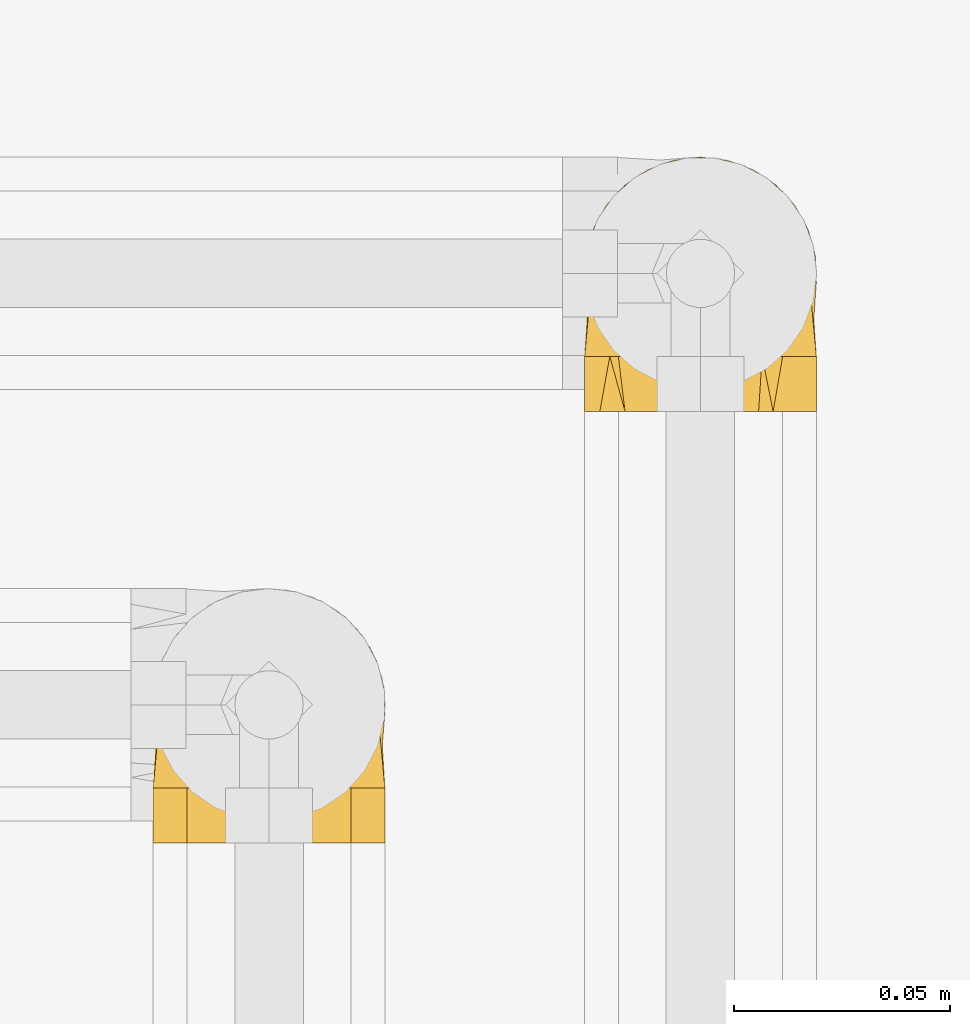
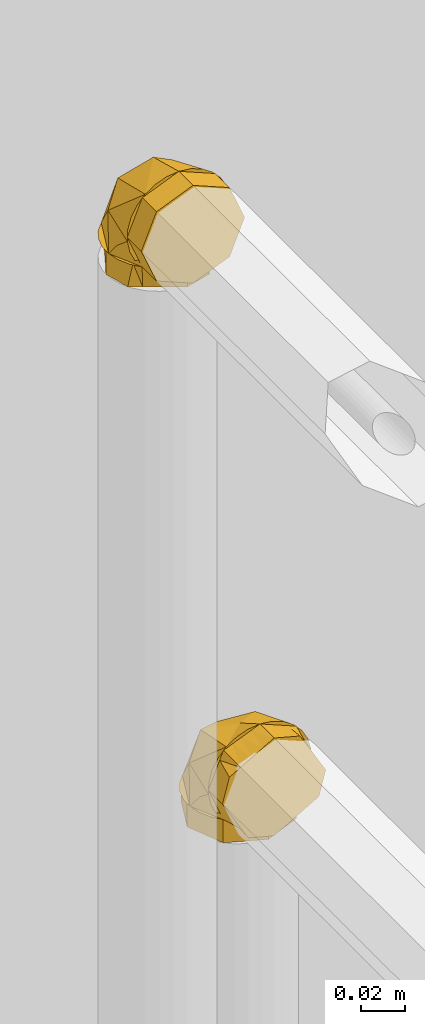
# One storey, part 315 of 652: 2 coverings.
"""IFC2X3 building model written with IfcOpenShell, lengths in millimetres."""

from ifc_helpers import new_model, entity, si_unit, converted_unit, direction, frame, origin, place, context, subcontext, project, spatial, face_set, surface_model, material, type_object, element, save


model = new_model("IFC2X3")

# Units and contexts
model_context = context("Model", 3, precision=0.01, world=frame((0.0, 0.0, 308426.39999999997)), true_north=direction((6.123233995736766e-17, 1.0)))
plan_context = context("Plan", 3, precision=0.01, world=frame((0.0, 0.0, 308426.39999999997)), true_north=direction((6.123233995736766e-17, 1.0)))
body_context = subcontext(model_context, "Body", "Model", "MODEL_VIEW")
ifc_project = project(units=[si_unit("LENGTHUNIT", "METRE", prefix="MILLI"), si_unit("AREAUNIT", "SQUARE_METRE"), si_unit("VOLUMEUNIT", "CUBIC_METRE"), converted_unit("PLANEANGLEUNIT", "DEGREE", entity("IfcPlaneAngleMeasure", 0.017453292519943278), si_unit("PLANEANGLEUNIT", "RADIAN"), dimensions=[0, 0, 0, 0, 0, 0, 0])], contexts=[model_context, plan_context])

# Site, building, storey
site_placement = place(None, origin())
site = spatial("IfcSite", under=ifc_project, at=site_placement, Name="Default", CompositionType="ELEMENT")
building_placement = place(site_placement, origin())
building = spatial("IfcBuilding", under=site, at=building_placement, CompositionType="ELEMENT")
storey_placement = place(building_placement, frame((0.0, 0.0, 1730.6999999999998)))
storey = spatial("IfcBuildingStorey", under=building, at=storey_placement, Name="EG_Produktion_FFB", CompositionType="ELEMENT", Elevation=1730.6999999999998)

# Coverings
ifc_material = material(Name="Dämmung - Armaflex-Schlauch")
covering_type = type_object("IfcCoveringType", Name="Rohrdämmung außen:Armaflex-Schlauch", PredefinedType="INSULATION")
covering_1_placement = place(storey_placement, frame((29071.46722776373, 50390.05280774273, 3728.532772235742)))
element("IfcCovering", 1, at=covering_1_placement, inside=storey, type_object=covering_type, material=ifc_material, Name="Rohrdämmung außen:Armaflex-Schlauch", ObjectType="Rohrdämmung außen:Armaflex-Schlauch", PredefinedType="INSULATION", context=body_context, shape_type="SurfaceModel", body=[
    surface_model("IfcFaceBasedSurfaceModel", [(9.65642195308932, 12.766249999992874, -47.750272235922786), (5.678961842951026, 17.724287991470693, -47.75027223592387), (2.973980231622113, 23.47627931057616, -47.75027223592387), (1.6920879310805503, 29.70195853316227, -47.75027223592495), (1.9046594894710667, 36.054685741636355, -47.75027223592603), (3.5998591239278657, 42.1807471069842, -47.75027223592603), (6.683299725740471, 47.7390493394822, -47.75027223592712), (10.983298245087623, 52.420111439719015, -47.75027223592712), (16.26043484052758, 55.963296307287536, -47.7502722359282), (22.220883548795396, 58.17132276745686, -47.7502722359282), (28.532772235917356, 58.921249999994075, -47.7502722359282), (34.84466092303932, 58.17132276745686, -47.7502722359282), (40.80510963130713, 55.963296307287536, -47.7502722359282), (46.08224622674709, 52.420111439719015, -47.75027223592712), (50.38224474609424, 47.7390493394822, -47.75027223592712), (53.46568534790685, 42.1807471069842, -47.75027223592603), (55.16088498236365, 36.054685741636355, -47.75027223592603), (55.37345654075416, 29.70195853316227, -47.75027223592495), (54.0915642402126, 23.47627931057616, -47.75027223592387), (51.38658262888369, 17.724287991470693, -47.75027223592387), (47.40912251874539, 12.766249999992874, -47.750272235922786), (51.38658262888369, 12.766249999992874, -42.79223424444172), (54.0915642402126, 12.766249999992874, -37.04024292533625), (55.37345654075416, 12.766249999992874, -30.814563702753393), (55.16088498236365, 12.766249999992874, -24.46183649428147), (53.46568534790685, 12.766249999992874, -18.33577512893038), (50.38224474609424, 12.766249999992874, -12.777472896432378), (46.08224622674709, 12.766250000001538, -8.096410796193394), (40.80510963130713, 12.766250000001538, -4.553225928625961), (34.84466092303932, 12.766250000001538, -2.3451994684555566), (28.532772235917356, 12.766250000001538, -1.5952722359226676), (22.220883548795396, 12.766250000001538, -2.3451994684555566), (16.26043484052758, 12.766250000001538, -4.553225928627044), (10.983298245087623, 12.766250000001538, -8.096410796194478), (6.683299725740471, 12.766249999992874, -12.777472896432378), (3.5998591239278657, 12.766249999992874, -18.33577512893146), (1.9046594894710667, 12.766249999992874, -24.46183649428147), (1.6920879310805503, 12.766249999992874, -30.814563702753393), (2.973980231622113, 12.766249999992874, -37.04024292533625), (5.678961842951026, 12.766249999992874, -42.7922342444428), (2.2767480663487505, 21.44687487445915, -37.80729463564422), (28.533284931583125, 52.737988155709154, -24.672631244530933), (6.336965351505, 41.0596312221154, -47.750292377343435), (3.5999231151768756, 33.56706530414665, -26.950980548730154), (14.285317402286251, 41.8409788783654, -17.332381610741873), (28.533284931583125, 31.02768542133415, -12.139675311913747), (6.336965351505, 12.768334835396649, -19.455507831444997), (42.781252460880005, 41.8409788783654, -17.332381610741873), (53.46664674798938, 33.56706530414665, -26.950980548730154), (54.7898217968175, 21.44687487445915, -37.80729463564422), (50.72727907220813, 12.768334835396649, -19.455507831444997), (50.72727907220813, 41.0596312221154, -47.750292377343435), (28.532772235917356, 58.921250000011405, -60.51652223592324), (33.2946944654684, 56.948797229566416, -60.51652223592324), (38.05661669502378, 54.97634445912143, -60.51652223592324), (42.81853892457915, 53.00389168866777, -60.51652223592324), (47.5804611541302, 51.03143891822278, -60.51652223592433), (49.552913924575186, 46.26951668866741, -60.51652223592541), (51.5253666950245, 41.507594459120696, -60.51652223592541), (53.49781946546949, 36.74567222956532, -60.51652223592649), (55.47027223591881, 31.983750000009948, -60.516522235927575), (53.497819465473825, 27.22182777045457, -60.516522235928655), (51.5253666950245, 22.459905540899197, -60.51652223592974), (49.552913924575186, 17.697983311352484, -60.51652223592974), (47.5804611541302, 12.936061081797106, -60.51652223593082), (42.81853892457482, 10.963608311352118, -60.5165222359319), (38.05661669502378, 8.991155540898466, -60.5165222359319), (33.2946944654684, 7.018702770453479, -60.5165222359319), (28.532772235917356, 5.046250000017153, -60.5165222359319), (23.77085000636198, 7.018702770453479, -60.5165222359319), (19.008927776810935, 8.991155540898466, -60.5165222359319), (14.247005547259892, 10.963608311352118, -60.51652223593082), (9.485083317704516, 12.936061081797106, -60.51652223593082), (7.512630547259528, 17.697983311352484, -60.51652223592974), (5.540177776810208, 22.459905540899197, -60.51652223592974), (3.567725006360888, 27.22182777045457, -60.516522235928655), (1.5952722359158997, 31.983750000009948, -60.516522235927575), (3.5677250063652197, 36.74567222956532, -60.516522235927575), (5.540177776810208, 41.507594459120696, -60.51652223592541), (7.512630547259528, 46.26951668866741, -60.51652223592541), (9.485083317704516, 51.03143891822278, -60.51652223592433), (14.247005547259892, 53.00389168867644, -60.51652223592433), (19.008927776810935, 54.97634445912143, -60.51652223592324), (23.77085000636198, 56.948797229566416, -60.51652223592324), (28.532772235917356, 58.92125000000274, -47.75027223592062), (23.770850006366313, 56.948797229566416, -47.75027223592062), (19.008927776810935, 54.97634445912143, -47.750272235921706), (14.24700554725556, 53.00389168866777, -47.750272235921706), (9.485083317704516, 51.03143891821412, -47.750272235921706), (7.095738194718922, 45.26304951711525, -47.750272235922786), (4.706393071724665, 39.49466011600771, -47.75027223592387), (1.5952722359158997, 31.983750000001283, -47.75027223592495), (3.567725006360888, 27.22182777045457, -47.75027223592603), (5.540177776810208, 22.459905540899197, -47.75027223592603), (7.512630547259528, 17.69798331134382, -47.7502722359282), (9.485083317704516, 12.936061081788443, -47.7502722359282), (15.253472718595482, 10.546715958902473, -47.7502722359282), (21.021862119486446, 8.157370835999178, -47.7502722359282), (28.532772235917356, 5.046250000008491, -47.75027223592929), (33.2946944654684, 7.018702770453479, -47.75027223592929), (38.05661669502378, 8.991155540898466, -47.7502722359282), (42.81853892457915, 10.963608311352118, -47.7502722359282), (47.5804611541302, 12.936061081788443, -47.7502722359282), (49.96980627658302, 18.704450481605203, -47.75027223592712), (52.359151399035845, 24.472839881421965, -47.75027223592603), (55.47027223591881, 31.983750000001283, -47.75027223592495), (53.497819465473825, 36.74567222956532, -47.75027223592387), (51.5253666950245, 41.507594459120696, -47.75027223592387), (49.552913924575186, 46.26951668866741, -47.750272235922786), (47.5804611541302, 51.03143891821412, -47.750272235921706), (41.81207177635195, 53.420784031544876, -47.750272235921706), (36.0436823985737, 55.810129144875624, -47.750272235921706), (28.532772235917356, 0.0, -1.5952722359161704), (22.700632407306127, 0.0, -4.962459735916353), (16.868492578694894, 0.0, -8.329647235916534), (11.036352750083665, 0.0, -11.696834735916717), (5.204212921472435, 0.0, -15.064022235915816), (3.3997425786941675, 0.0, -21.79839723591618), (1.5952722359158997, 0.0, -28.532772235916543), (4.962459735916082, 0.0, -34.36491206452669), (8.329647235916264, 0.0, -40.197051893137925), (11.696834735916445, 0.0, -46.02919172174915), (15.064022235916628, 0.0, -51.861331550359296), (21.79839723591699, 0.0, -53.66580189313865), (28.532772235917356, 0.0, -55.470272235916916), (34.36491206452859, 0.0, -52.10308473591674), (40.197051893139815, 0.0, -48.73589723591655), (46.02919172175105, 0.0, -45.36870973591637), (51.86133155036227, 0.0, -42.00152223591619), (53.66580189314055, 0.0, -35.26714723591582), (55.47027223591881, 0.0, -28.532772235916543), (52.10308473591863, 0.0, -22.700632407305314), (48.73589723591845, 0.0, -16.868492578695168), (45.368709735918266, 0.0, -11.036352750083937), (42.00152223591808, 0.0, -5.204212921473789), (35.26714723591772, 0.0, -3.3997425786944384), (28.532772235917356, 12.766250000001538, -1.5952722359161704), (33.2946944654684, 12.766250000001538, -3.567725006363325), (38.05661669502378, 12.766250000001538, -5.540177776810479), (42.81853892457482, 12.766250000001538, -7.512630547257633), (47.5804611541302, 12.766250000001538, -9.485083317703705), (49.552913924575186, 12.766250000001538, -14.247005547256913), (51.5253666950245, 12.766250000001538, -19.008927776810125), (53.49781946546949, 12.766250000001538, -23.770850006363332), (55.47027223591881, 12.766250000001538, -28.532772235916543), (53.49781946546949, 12.766250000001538, -33.29469446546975), (51.5253666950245, 12.766250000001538, -38.05661669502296), (49.552913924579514, 12.766250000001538, -42.818538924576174), (47.5804611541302, 12.766250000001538, -47.58046115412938), (42.81853892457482, 12.766250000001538, -49.552913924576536), (38.05661669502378, 12.766250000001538, -51.52536669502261), (33.2946944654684, 12.766250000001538, -53.49781946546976), (28.532772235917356, 12.766250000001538, -55.470272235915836), (23.77085000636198, 12.766250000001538, -53.49781946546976), (19.008927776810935, 12.766250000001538, -51.52536669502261), (14.247005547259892, 12.766250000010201, -49.552913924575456), (9.485083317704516, 12.766250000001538, -47.58046115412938), (7.512630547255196, 12.766250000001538, -42.818538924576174), (5.540177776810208, 12.766250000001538, -38.05661669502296), (3.5677250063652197, 12.766250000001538, -33.29469446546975), (1.5952722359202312, 12.766250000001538, -28.532772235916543), (3.567725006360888, 12.766250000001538, -23.770850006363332), (5.540177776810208, 12.766250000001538, -19.008927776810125), (7.512630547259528, 12.766250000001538, -14.247005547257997), (9.485083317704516, 12.766250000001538, -9.485083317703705), (14.247005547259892, 12.766250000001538, -7.512630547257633), (19.008927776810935, 12.766250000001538, -5.540177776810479), (23.77085000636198, 12.766250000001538, -3.567725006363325)], [face_set([[[0, 1, 2, 3, 4, 5, 6, 7, 8, 9, 10, 11, 12, 13, 14, 15, 16, 17, 18, 19]], [[20, 21, 22, 23, 24, 25, 26, 27, 28, 29, 30, 31, 32, 33, 34, 35, 36, 37, 38, 39]], [[0, 40, 3]], [[10, 7, 41]], [[42, 3, 43]], [[40, 43, 3]], [[37, 40, 0]], [[7, 43, 44]], [[45, 41, 44]], [[7, 44, 41]], [[33, 30, 45]], [[45, 44, 33]], [[43, 33, 44]], [[43, 37, 46]], [[43, 7, 42]], [[37, 43, 40]], [[46, 33, 43]], [[13, 10, 41]], [[27, 47, 45]], [[45, 30, 27]], [[48, 47, 27]], [[49, 48, 23]], [[48, 50, 23]], [[45, 47, 41]], [[20, 49, 23]], [[47, 48, 13]], [[17, 49, 20]], [[41, 47, 13]], [[48, 17, 51]], [[48, 27, 50]], [[17, 48, 49]], [[51, 13, 48]]]), face_set([[[52, 53, 54, 55, 56, 57, 58, 59, 60, 61, 62, 63, 64, 65, 66, 67, 68, 69, 70, 71, 72, 73, 74, 75, 76, 77, 78, 79, 80, 81, 82, 83]], [[84, 85, 86, 87, 88, 89, 90, 91, 92, 93, 94, 95, 96, 97, 98, 99, 100, 101, 102, 103, 104, 105, 106, 107, 108, 109, 110, 111]], [[111, 110, 109, 56, 55, 54, 53, 52, 84]], [[56, 109, 108, 107, 106, 105, 60, 59, 58, 57]], [[104, 103, 102, 64, 63, 62, 61, 60, 105]], [[64, 102, 101, 100, 99, 98, 68, 67, 66, 65]], [[97, 96, 95, 72, 71, 70, 69, 68, 98]], [[72, 95, 94, 93, 92, 91, 76, 75, 74, 73]], [[90, 89, 88, 80, 79, 78, 77, 76, 91]], [[80, 88, 87, 86, 85, 84, 52, 83, 82, 81]]]), face_set([[[112, 113, 114, 115, 116, 117, 118, 119, 120, 121, 122, 123, 124, 125, 126, 127, 128, 129, 130, 131, 132, 133, 134, 135]], [[136, 137, 138, 139, 140, 141, 142, 143, 144, 145, 146, 147, 148, 149, 150, 151, 152, 153, 154, 155, 156, 157, 158, 159, 160, 161, 162, 163, 164, 165, 166, 167]], [[155, 121, 156]], [[118, 159, 119]], [[159, 158, 119]], [[123, 154, 153]], [[153, 152, 124]], [[121, 155, 122]], [[120, 158, 157]], [[118, 160, 159]], [[158, 120, 119]], [[124, 123, 153]], [[157, 156, 121]], [[155, 154, 122]], [[123, 122, 154]], [[120, 157, 121]], [[163, 115, 164]], [[112, 167, 113]], [[167, 166, 113]], [[117, 162, 161]], [[161, 160, 118]], [[115, 163, 116]], [[114, 166, 165]], [[112, 136, 167]], [[166, 114, 113]], [[118, 117, 161]], [[165, 164, 115]], [[163, 162, 116]], [[117, 116, 162]], [[114, 165, 115]], [[139, 133, 140]], [[130, 143, 131]], [[143, 142, 131]], [[135, 138, 137]], [[137, 136, 112]], [[133, 139, 134]], [[132, 142, 141]], [[130, 144, 143]], [[142, 132, 131]], [[112, 135, 137]], [[141, 140, 133]], [[139, 138, 134]], [[135, 134, 138]], [[132, 141, 133]], [[147, 127, 148]], [[124, 151, 125]], [[151, 150, 125]], [[129, 146, 145]], [[145, 144, 130]], [[127, 147, 128]], [[126, 150, 149]], [[124, 152, 151]], [[150, 126, 125]], [[130, 129, 145]], [[149, 148, 127]], [[147, 146, 128]], [[129, 128, 146]], [[126, 149, 127]]])]),
])
covering_2_placement = place(storey_placement, frame((28971.467227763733, 50290.05280774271, 4128.5327722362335)))
element("IfcCovering", 2, at=covering_2_placement, inside=storey, type_object=covering_type, material=ifc_material, Name="Rohrdämmung außen:Armaflex-Schlauch", ObjectType="Rohrdämmung außen:Armaflex-Schlauch", PredefinedType="INSULATION", context=body_context, shape_type="SurfaceModel", body=[
    surface_model("IfcFaceBasedSurfaceModel", [(47.40912251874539, 12.766250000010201, -47.75027223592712), (51.38658262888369, 12.766250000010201, -42.79223424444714), (54.0915642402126, 12.766250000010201, -37.040242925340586), (55.37345654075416, 12.766250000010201, -30.814563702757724), (55.16088498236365, 12.766250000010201, -24.461836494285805), (53.46568534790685, 12.766250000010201, -18.335775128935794), (50.38224474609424, 12.766250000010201, -12.77747289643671), (46.08224622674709, 12.766250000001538, -8.096410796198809), (40.80510963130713, 12.766250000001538, -4.553225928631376), (34.84466092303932, 12.766250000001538, -2.3451994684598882), (28.532772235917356, 12.766250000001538, -1.595272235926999), (22.220883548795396, 12.766250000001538, -2.3451994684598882), (16.26043484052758, 12.766250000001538, -4.553225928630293), (10.983298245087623, 12.766250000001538, -8.096410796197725), (6.683299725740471, 12.766250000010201, -12.77747289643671), (3.5998591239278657, 12.766250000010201, -18.33577512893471), (1.9046594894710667, 12.766250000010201, -24.461836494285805), (1.6920879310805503, 12.766250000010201, -30.814563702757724), (2.973980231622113, 12.766250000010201, -37.040242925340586), (5.678961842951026, 12.766250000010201, -42.79223424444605), (9.65642195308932, 12.766250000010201, -47.75027223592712), (5.678961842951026, 17.72428799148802, -47.75027223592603), (2.973980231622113, 23.476279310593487, -47.75027223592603), (1.6920879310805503, 29.701958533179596, -47.75027223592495), (1.9046594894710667, 36.05468574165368, -47.75027223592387), (3.5998591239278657, 42.18074710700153, -47.75027223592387), (6.683299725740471, 47.73904933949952, -47.750272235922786), (10.983298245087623, 52.420111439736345, -47.750272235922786), (16.26043484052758, 55.96329630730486, -47.750272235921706), (22.220883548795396, 58.17132276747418, -47.750272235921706), (28.532772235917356, 58.921250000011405, -47.750272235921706), (34.84466092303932, 58.17132276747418, -47.750272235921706), (40.80510963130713, 55.96329630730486, -47.750272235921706), (46.08224622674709, 52.420111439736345, -47.750272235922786), (50.38224474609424, 47.73904933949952, -47.750272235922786), (53.46568534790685, 42.18074710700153, -47.75027223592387), (55.16088498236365, 36.05468574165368, -47.75027223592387), (55.37345654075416, 29.701958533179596, -47.75027223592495), (54.0915642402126, 23.476279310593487, -47.75027223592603), (51.38658262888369, 17.72428799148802, -47.75027223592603), (54.78894899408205, 22.70871569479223, -39.06942384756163), (28.53241212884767, 35.84279772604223, -7.778891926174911), (50.7287317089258, 12.765136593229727, -19.455504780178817), (53.46577394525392, 33.56386706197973, -26.950977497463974), (42.78037965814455, 43.18188464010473, -18.674738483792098), (28.53241212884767, 48.37691637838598, -29.486287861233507), (50.7287317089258, 41.06108385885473, -47.75028932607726), (14.284444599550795, 43.18188464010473, -18.674738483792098), (3.5990503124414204, 33.56386706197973, -26.950977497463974), (2.2758752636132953, 22.70871569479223, -39.06942384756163), (6.3384179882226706, 41.06108385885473, -47.75028932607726), (6.3384179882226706, 12.765136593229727, -19.455504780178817), (28.532772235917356, 0.0, -1.5952722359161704), (23.770850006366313, 0.0, -3.567725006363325), (19.008927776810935, 0.0, -5.540177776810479), (14.24700554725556, 0.0, -7.51263054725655), (9.485083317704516, 0.0, -9.485083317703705), (7.512630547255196, 0.0, -14.247005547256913), (5.540177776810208, 0.0, -19.008927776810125), (3.5677250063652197, 0.0, -23.770850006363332), (1.5952722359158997, 0.0, -28.532772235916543), (3.567725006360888, 0.0, -33.29469446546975), (5.540177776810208, 0.0, -38.05661669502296), (7.512630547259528, 0.0, -42.818538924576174), (9.485083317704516, 0.0, -47.58046115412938), (14.24700554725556, 0.0, -49.552913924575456), (19.008927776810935, 0.0, -51.52536669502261), (23.770850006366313, 0.0, -53.49781946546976), (28.532772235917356, 0.0, -55.470272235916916), (33.2946944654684, 0.0, -53.49781946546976), (38.05661669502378, 0.0, -51.52536669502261), (42.81853892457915, 0.0, -49.552913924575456), (47.5804611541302, 0.0, -47.58046115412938), (49.552913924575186, 0.0, -42.818538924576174), (51.5253666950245, 0.0, -38.05661669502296), (53.497819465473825, 0.0, -33.29469446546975), (55.47027223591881, 0.0, -28.532772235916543), (53.49781946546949, 0.0, -23.770850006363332), (51.5253666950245, 0.0, -19.008927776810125), (49.552913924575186, 0.0, -14.247005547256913), (47.5804611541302, 0.0, -9.485083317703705), (42.81853892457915, 0.0, -7.51263054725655), (38.05661669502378, 0.0, -5.540177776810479), (33.29469446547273, 0.0, -3.567725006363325), (28.532772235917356, 12.766250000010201, -1.5952722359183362), (33.2946944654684, 12.766250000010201, -3.567725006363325), (38.05661669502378, 12.766250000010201, -5.540177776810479), (42.81853892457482, 12.766250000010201, -7.512630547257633), (47.5804611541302, 12.766250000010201, -9.48508331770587), (49.96980627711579, 12.766250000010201, -15.25347271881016), (52.359151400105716, 12.766250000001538, -21.021862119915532), (55.47027223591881, 12.766250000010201, -28.53277223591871), (53.49781946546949, 12.766250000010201, -33.29469446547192), (51.5253666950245, 12.766250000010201, -38.05661669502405), (49.552913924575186, 12.766250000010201, -42.818538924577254), (47.5804611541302, 12.766250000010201, -47.58046115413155), (41.81207175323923, 12.766250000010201, -49.96980627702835), (36.04368235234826, 12.766250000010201, -52.35915139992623), (28.532772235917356, 12.766250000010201, -55.47027223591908), (23.770850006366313, 12.766250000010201, -53.49781946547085), (19.008927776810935, 12.766250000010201, -51.52536669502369), (14.24700554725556, 12.766250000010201, -49.552913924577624), (9.485083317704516, 12.766250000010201, -47.58046115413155), (7.095738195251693, 12.766250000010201, -41.81207175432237), (4.706393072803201, 12.766250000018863, -36.04368235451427), (1.5952722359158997, 12.766250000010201, -28.53277223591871), (3.5677250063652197, 12.766250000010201, -23.7708500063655), (5.540177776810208, 12.766250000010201, -19.008927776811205), (7.512630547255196, 12.766250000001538, -14.247005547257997), (9.485083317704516, 12.766250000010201, -9.48508331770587), (15.253472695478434, 12.766250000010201, -7.095738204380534), (21.021862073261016, 12.766250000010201, -4.7063930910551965), (28.532772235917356, 58.921250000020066, -60.51652223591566), (34.36491206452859, 55.55406250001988, -60.51652223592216), (40.197051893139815, 52.186875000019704, -60.51652223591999), (46.02919172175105, 48.81968750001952, -60.516522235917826), (51.86133155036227, 45.452500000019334, -60.51652223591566), (53.66580189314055, 38.71812500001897, -60.51652223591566), (55.47027223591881, 31.98375000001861, -60.51652223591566), (52.10308473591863, 26.15161017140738, -60.51652223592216), (48.73589723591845, 20.319470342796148, -60.51652223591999), (45.368709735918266, 14.487330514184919, -60.516522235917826), (42.00152223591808, 8.65519068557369, -60.51652223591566), (35.26714723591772, 6.850720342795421, -60.51652223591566), (28.532772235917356, 5.046250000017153, -60.51652223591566), (22.700632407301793, 8.413437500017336, -60.51652223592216), (16.868492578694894, 11.780625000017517, -60.51652223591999), (11.036352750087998, 15.1478125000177, -60.516522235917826), (5.204212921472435, 18.51500000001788, -60.51652223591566), (3.3997425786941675, 25.249375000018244, -60.51652223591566), (1.5952722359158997, 31.98375000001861, -60.51652223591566), (4.962459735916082, 37.81588982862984, -60.51652223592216), (8.329647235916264, 43.64802965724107, -60.51652223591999), (11.696834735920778, 49.4801694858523, -60.516522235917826), (15.064022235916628, 55.312309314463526, -60.51652223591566), (21.79839723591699, 57.1167796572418, -60.51652223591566), (28.532772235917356, 58.921250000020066, -47.75027223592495), (23.77085000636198, 56.94879722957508, -47.75027223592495), (19.008927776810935, 54.97634445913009, -47.75027223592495), (14.24700554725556, 53.00389168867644, -47.75027223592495), (9.485083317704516, 51.03143891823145, -47.75027223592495), (7.512630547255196, 46.26951668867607, -47.75027223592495), (5.540177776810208, 41.50759445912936, -47.75027223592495), (3.5677250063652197, 36.745672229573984, -47.75027223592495), (1.5952722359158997, 31.98375000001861, -47.75027223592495), (3.567725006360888, 27.221827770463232, -47.75027223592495), (5.540177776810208, 22.459905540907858, -47.75027223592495), (7.512630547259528, 17.697983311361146, -47.75027223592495), (9.485083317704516, 12.93606108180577, -47.75027223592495), (14.247005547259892, 10.963608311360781, -47.75027223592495), (19.008927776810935, 8.99115554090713, -47.75027223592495), (23.770850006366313, 7.018702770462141, -47.75027223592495), (28.532772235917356, 5.046250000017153, -47.75027223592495), (33.2946944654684, 7.018702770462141, -47.75027223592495), (38.05661669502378, 8.99115554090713, -47.75027223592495), (42.81853892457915, 10.963608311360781, -47.75027223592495), (47.5804611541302, 12.93606108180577, -47.75027223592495), (49.552913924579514, 17.697983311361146, -47.75027223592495), (51.5253666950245, 22.459905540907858, -47.75027223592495), (53.497819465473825, 27.221827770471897, -47.75027223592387), (55.47027223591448, 31.98375000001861, -47.75027223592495), (53.49781946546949, 36.745672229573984, -47.75027223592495), (51.5253666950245, 41.50759445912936, -47.75027223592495), (49.552913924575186, 46.26951668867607, -47.75027223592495), (47.5804611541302, 51.03143891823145, -47.75027223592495), (42.81853892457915, 53.00389168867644, -47.75027223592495), (38.05661669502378, 54.97634445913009, -47.75027223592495), (33.2946944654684, 56.948797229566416, -47.75027223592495)], [face_set([[[0, 1, 2, 3, 4, 5, 6, 7, 8, 9, 10, 11, 12, 13, 14, 15, 16, 17, 18, 19]], [[20, 21, 22, 23, 24, 25, 26, 27, 28, 29, 30, 31, 32, 33, 34, 35, 36, 37, 38, 39]], [[0, 40, 3]], [[10, 7, 41]], [[42, 3, 43]], [[40, 43, 3]], [[37, 40, 0]], [[7, 43, 44]], [[45, 41, 44]], [[7, 44, 41]], [[33, 30, 45]], [[45, 44, 33]], [[43, 33, 44]], [[43, 37, 46]], [[43, 7, 42]], [[37, 43, 40]], [[46, 33, 43]], [[13, 10, 41]], [[27, 47, 45]], [[45, 30, 27]], [[48, 47, 27]], [[49, 48, 23]], [[48, 50, 23]], [[45, 47, 41]], [[20, 49, 23]], [[47, 48, 13]], [[17, 49, 20]], [[41, 47, 13]], [[48, 17, 51]], [[48, 27, 50]], [[17, 48, 49]], [[51, 13, 48]]]), face_set([[[52, 53, 54, 55, 56, 57, 58, 59, 60, 61, 62, 63, 64, 65, 66, 67, 68, 69, 70, 71, 72, 73, 74, 75, 76, 77, 78, 79, 80, 81, 82, 83]], [[84, 85, 86, 87, 88, 89, 90, 91, 92, 93, 94, 95, 96, 97, 98, 99, 100, 101, 102, 103, 104, 105, 106, 107, 108, 109, 110, 111]], [[111, 110, 109, 56, 55, 54, 53, 52, 84]], [[56, 109, 108, 107, 106, 105, 60, 59, 58, 57]], [[104, 103, 102, 64, 63, 62, 61, 60, 105]], [[64, 102, 101, 100, 99, 98, 68, 67, 66, 65]], [[97, 96, 95, 72, 71, 70, 69, 68, 98]], [[72, 95, 94, 93, 92, 91, 76, 75, 74, 73]], [[90, 89, 88, 80, 79, 78, 77, 76, 91]], [[80, 88, 87, 86, 85, 84, 52, 83, 82, 81]]]), face_set([[[112, 113, 114, 115, 116, 117, 118, 119, 120, 121, 122, 123, 124, 125, 126, 127, 128, 129, 130, 131, 132, 133, 134, 135]], [[136, 137, 138, 139, 140, 141, 142, 143, 144, 145, 146, 147, 148, 149, 150, 151, 152, 153, 154, 155, 156, 157, 158, 159, 160, 161, 162, 163, 164, 165, 166, 167]], [[155, 121, 156]], [[118, 159, 119]], [[159, 158, 119]], [[123, 154, 153]], [[153, 152, 124]], [[121, 155, 122]], [[120, 158, 157]], [[118, 160, 159]], [[158, 120, 119]], [[124, 123, 153]], [[157, 156, 121]], [[155, 154, 122]], [[123, 122, 154]], [[120, 157, 121]], [[163, 115, 164]], [[112, 167, 113]], [[167, 166, 113]], [[117, 162, 161]], [[161, 160, 118]], [[115, 163, 116]], [[114, 166, 165]], [[112, 136, 167]], [[166, 114, 113]], [[118, 117, 161]], [[165, 164, 115]], [[163, 162, 116]], [[117, 116, 162]], [[114, 165, 115]], [[139, 133, 140]], [[130, 143, 131]], [[143, 142, 131]], [[135, 138, 137]], [[137, 136, 112]], [[133, 139, 134]], [[132, 142, 141]], [[130, 144, 143]], [[142, 132, 131]], [[112, 135, 137]], [[141, 140, 133]], [[139, 138, 134]], [[135, 134, 138]], [[132, 141, 133]], [[147, 127, 148]], [[124, 151, 125]], [[151, 150, 125]], [[129, 146, 145]], [[145, 144, 130]], [[127, 147, 128]], [[126, 150, 149]], [[124, 152, 151]], [[150, 126, 125]], [[130, 129, 145]], [[149, 148, 127]], [[147, 146, 128]], [[129, 128, 146]], [[126, 149, 127]]])]),
])

save(model, "model.ifc")
